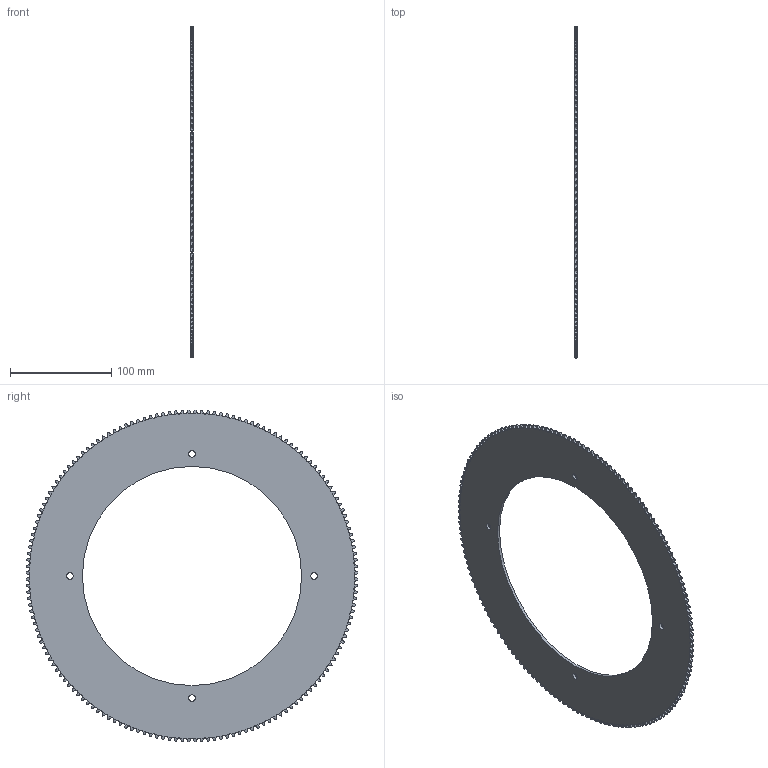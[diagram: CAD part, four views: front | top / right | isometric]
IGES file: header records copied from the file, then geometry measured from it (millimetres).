
Global section: file name: No Iges File Name specified; native system: AutoDesk Inventor R6.0; preprocessor: AutoDesk Inventor Iges Exporter R6.0; author: No Author specified; organization: No Organization specified; date: 20080103.164928; units: inch
Bounding box: 2.8 x 327.12 x 327.12 mm (x, y, z)
Surface area: 96516.4 mm2 (no closed solid volume)
Topology: 0 solids, 0 shells, 1287 faces, 7710 edges, 7705 vertices
Faces by surface type: revolution 1280, bspline 5, plane 2
